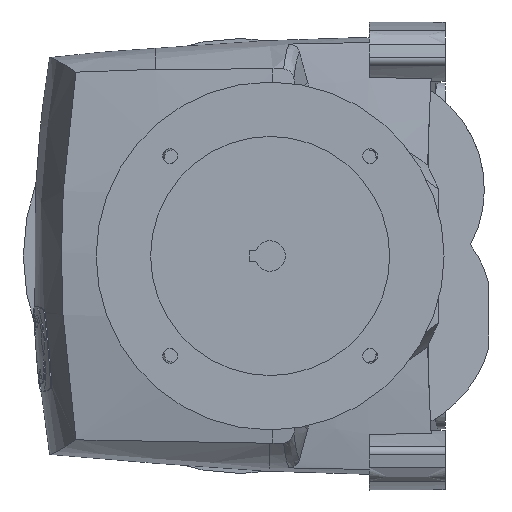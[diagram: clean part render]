
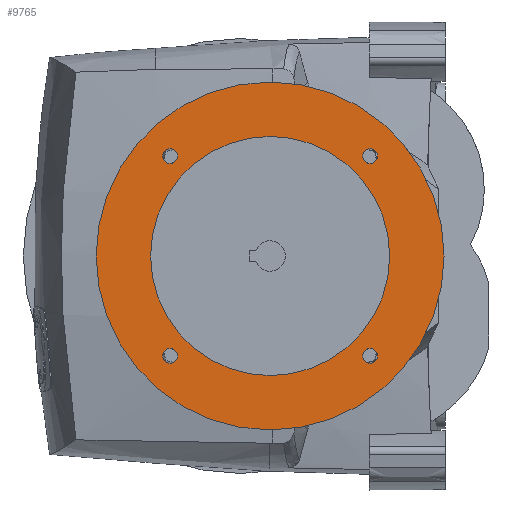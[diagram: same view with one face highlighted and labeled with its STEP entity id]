
A CAD part, left-side view. The second image highlights one B-rep face of the part: STEP entity #9765.
In plain terms, the highlighted planar face has unit normal (-1, 0, 0).
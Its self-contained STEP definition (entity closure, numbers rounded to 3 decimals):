
#1586=CARTESIAN_POINT('',(-137.5,55.538,-45.962));
#1587=DIRECTION('',(1.,0.,0.));
#1588=DIRECTION('',(0.,-1.,0.));
#1589=AXIS2_PLACEMENT_3D('',#1586,#1587,#1588);
#1591=CARTESIAN_POINT('',(-137.5,55.538,-45.962));
#1592=DIRECTION('',(1.,0.,0.));
#1593=DIRECTION('',(0.,1.,0.));
#1594=AXIS2_PLACEMENT_3D('',#1591,#1592,#1593);
#1596=CARTESIAN_POINT('',(-137.5,55.538,45.962));
#1597=DIRECTION('',(1.,0.,0.));
#1598=DIRECTION('',(0.,-1.,0.));
#1599=AXIS2_PLACEMENT_3D('',#1596,#1597,#1598);
#1601=CARTESIAN_POINT('',(-137.5,55.538,45.962));
#1602=DIRECTION('',(1.,0.,0.));
#1603=DIRECTION('',(0.,1.,0.));
#1604=AXIS2_PLACEMENT_3D('',#1601,#1602,#1603);
#1606=CARTESIAN_POINT('',(-137.5,147.462,-45.962));
#1607=DIRECTION('',(1.,0.,0.));
#1608=DIRECTION('',(0.,-1.,0.));
#1609=AXIS2_PLACEMENT_3D('',#1606,#1607,#1608);
#1611=CARTESIAN_POINT('',(-137.5,147.462,-45.962));
#1612=DIRECTION('',(1.,0.,0.));
#1613=DIRECTION('',(0.,1.,0.));
#1614=AXIS2_PLACEMENT_3D('',#1611,#1612,#1613);
#1616=CARTESIAN_POINT('',(-137.5,147.462,45.962));
#1617=DIRECTION('',(1.,0.,0.));
#1618=DIRECTION('',(0.,-1.,0.));
#1619=AXIS2_PLACEMENT_3D('',#1616,#1617,#1618);
#1621=CARTESIAN_POINT('',(-137.5,147.462,45.962));
#1622=DIRECTION('',(1.,0.,0.));
#1623=DIRECTION('',(0.,1.,0.));
#1624=AXIS2_PLACEMENT_3D('',#1621,#1622,#1623);
#1626=CARTESIAN_POINT('',(-137.5,101.5,0.));
#1627=DIRECTION('',(-1.,0.,0.));
#1628=DIRECTION('',(0.,0.,-1.));
#1629=AXIS2_PLACEMENT_3D('',#1626,#1627,#1628);
#1631=CARTESIAN_POINT('',(-137.5,101.5,0.));
#1632=DIRECTION('',(-1.,0.,0.));
#1633=DIRECTION('',(0.,0.,1.));
#1634=AXIS2_PLACEMENT_3D('',#1631,#1632,#1633);
#1636=CARTESIAN_POINT('',(-137.5,101.5,0.));
#1637=DIRECTION('',(1.,0.,0.));
#1638=DIRECTION('',(0.,0.,-1.));
#1639=AXIS2_PLACEMENT_3D('',#1636,#1637,#1638);
#1641=CARTESIAN_POINT('',(-137.5,101.5,0.));
#1642=DIRECTION('',(1.,0.,0.));
#1643=DIRECTION('',(0.,0.,1.));
#1644=AXIS2_PLACEMENT_3D('',#1641,#1642,#1643);
#6894=CARTESIAN_POINT('',(-137.5,101.5,79.99));
#6896=VERTEX_POINT('',#6894);
#6898=CARTESIAN_POINT('',(-137.5,101.5,-79.989));
#6899=VERTEX_POINT('',#6898);
#6910=CARTESIAN_POINT('',(-137.5,101.5,-54.99));
#6911=CARTESIAN_POINT('',(-137.5,101.5,54.99));
#6912=VERTEX_POINT('',#6910);
#6913=VERTEX_POINT('',#6911);
#7126=CARTESIAN_POINT('',(-137.5,144.062,-45.962));
#7127=CARTESIAN_POINT('',(-137.5,150.862,-45.962));
#7128=VERTEX_POINT('',#7126);
#7129=VERTEX_POINT('',#7127);
#7130=CARTESIAN_POINT('',(-137.5,52.138,-45.962));
#7131=CARTESIAN_POINT('',(-137.5,58.938,-45.962));
#7132=VERTEX_POINT('',#7130);
#7133=VERTEX_POINT('',#7131);
#7134=CARTESIAN_POINT('',(-137.5,52.138,45.962));
#7135=CARTESIAN_POINT('',(-137.5,58.938,45.962));
#7136=VERTEX_POINT('',#7134);
#7137=VERTEX_POINT('',#7135);
#7138=CARTESIAN_POINT('',(-137.5,144.062,45.962));
#7139=CARTESIAN_POINT('',(-137.5,150.862,45.962));
#7140=VERTEX_POINT('',#7138);
#7141=VERTEX_POINT('',#7139);
#9726=CARTESIAN_POINT('',(-137.5,101.5,0.));
#9727=DIRECTION('',(1.,0.,0.));
#9728=DIRECTION('',(0.,0.,-1.));
#9729=AXIS2_PLACEMENT_3D('',#9726,#9727,#9728);
#9730=PLANE('',#9729);
#9731=ORIENTED_EDGE('',*,*,#9705,.F.);
#9732=ORIENTED_EDGE('',*,*,#9720,.F.);
#9733=EDGE_LOOP('',(#9731,#9732));
#9734=FACE_OUTER_BOUND('',#9733,.F.);
#9736=ORIENTED_EDGE('',*,*,#9735,.F.);
#9738=ORIENTED_EDGE('',*,*,#9737,.F.);
#9739=EDGE_LOOP('',(#9736,#9738));
#9740=FACE_BOUND('',#9739,.F.);
#9742=ORIENTED_EDGE('',*,*,#9741,.F.);
#9744=ORIENTED_EDGE('',*,*,#9743,.F.);
#9745=EDGE_LOOP('',(#9742,#9744));
#9746=FACE_BOUND('',#9745,.F.);
#9748=ORIENTED_EDGE('',*,*,#9747,.F.);
#9750=ORIENTED_EDGE('',*,*,#9749,.F.);
#9751=EDGE_LOOP('',(#9748,#9750));
#9752=FACE_BOUND('',#9751,.F.);
#9754=ORIENTED_EDGE('',*,*,#9753,.F.);
#9756=ORIENTED_EDGE('',*,*,#9755,.F.);
#9757=EDGE_LOOP('',(#9754,#9756));
#9758=FACE_BOUND('',#9757,.F.);
#9760=ORIENTED_EDGE('',*,*,#9759,.F.);
#9762=ORIENTED_EDGE('',*,*,#9761,.F.);
#9763=EDGE_LOOP('',(#9760,#9762));
#9764=FACE_BOUND('',#9763,.F.);
#9765=ADVANCED_FACE('',(#9734,#9740,#9746,#9752,#9758,#9764),#9730,.F.);
#1590=CIRCLE('',#1589,3.4);
#1595=CIRCLE('',#1594,3.4);
#1600=CIRCLE('',#1599,3.4);
#1605=CIRCLE('',#1604,3.4);
#1610=CIRCLE('',#1609,3.4);
#1615=CIRCLE('',#1614,3.4);
#1620=CIRCLE('',#1619,3.4);
#1625=CIRCLE('',#1624,3.4);
#1630=CIRCLE('',#1629,79.989);
#1635=CIRCLE('',#1634,79.989);
#1640=CIRCLE('',#1639,54.99);
#1645=CIRCLE('',#1644,54.99);
#9705=EDGE_CURVE('',#6899,#6896,#1630,.T.);
#9720=EDGE_CURVE('',#6896,#6899,#1635,.T.);
#9735=EDGE_CURVE('',#7132,#7133,#1590,.T.);
#9737=EDGE_CURVE('',#7133,#7132,#1595,.T.);
#9741=EDGE_CURVE('',#7136,#7137,#1600,.T.);
#9743=EDGE_CURVE('',#7137,#7136,#1605,.T.);
#9747=EDGE_CURVE('',#7128,#7129,#1610,.T.);
#9749=EDGE_CURVE('',#7129,#7128,#1615,.T.);
#9753=EDGE_CURVE('',#7140,#7141,#1620,.T.);
#9755=EDGE_CURVE('',#7141,#7140,#1625,.T.);
#9759=EDGE_CURVE('',#6912,#6913,#1640,.T.);
#9761=EDGE_CURVE('',#6913,#6912,#1645,.T.);
